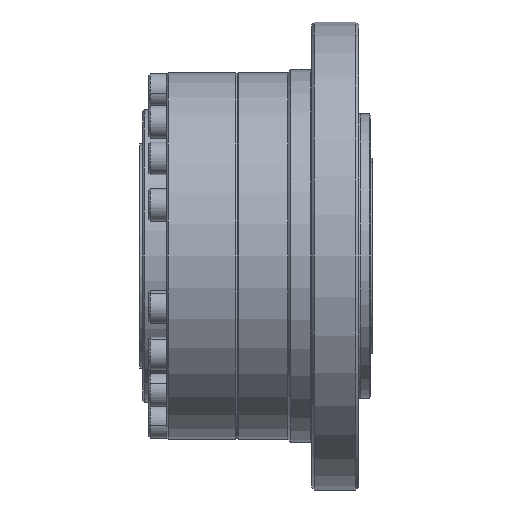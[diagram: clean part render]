
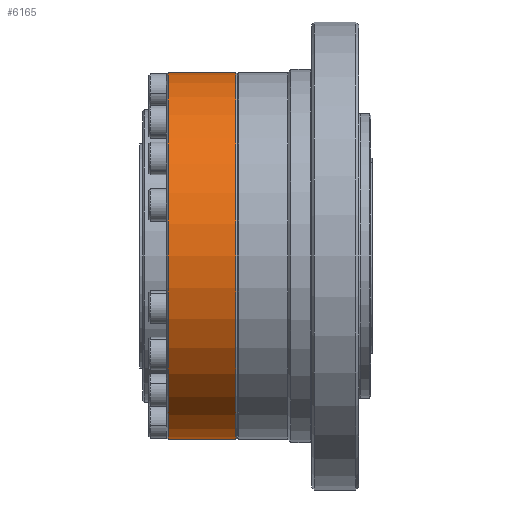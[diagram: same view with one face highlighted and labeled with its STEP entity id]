
A CAD part, front view. The second image highlights one B-rep face of the part: STEP entity #6165.
In plain terms, the highlighted cylindrical face has radius 31 mm (diameter 62 mm), a partial arc.
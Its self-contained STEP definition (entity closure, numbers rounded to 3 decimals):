
#868 = CARTESIAN_POINT ( 'NONE',  ( -37.425, 5.982, 48. ) ) ;
#1724 = CIRCLE ( 'NONE', #3971, 31. ) ;
#2886 = VERTEX_POINT ( 'NONE', #18657 ) ;
#3475 = DIRECTION ( 'NONE',  ( -1., 0., 0. ) ) ;
#3971 = AXIS2_PLACEMENT_3D ( 'NONE', #6357, #6541, #6526 ) ;
#3974 = CYLINDRICAL_SURFACE ( 'NONE', #16759, 31. ) ;
#4394 = DIRECTION ( 'NONE',  ( -1., 0., 0. ) ) ;
#4835 = VECTOR ( 'NONE', #5107, 1000. ) ;
#5107 = DIRECTION ( 'NONE',  ( -1., 0., 0. ) ) ;
#6165 = ADVANCED_FACE ( 'NONE', ( #11815 ), #3974, .T. ) ;
#6357 = CARTESIAN_POINT ( 'NONE',  ( -37.425, 5.982, 79. ) ) ;
#6526 = DIRECTION ( 'NONE',  ( 0., 0., 1. ) ) ;
#6541 = DIRECTION ( 'NONE',  ( 1., 0., 0. ) ) ;
#6702 = VERTEX_POINT ( 'NONE', #7712 ) ;
#6762 = ORIENTED_EDGE ( 'NONE', *, *, #7601, .T. ) ;
#6919 = VECTOR ( 'NONE', #4394, 1000. ) ;
#7368 = EDGE_CURVE ( 'NONE', #6702, #10870, #8321, .T. ) ;
#7394 = CIRCLE ( 'NONE', #12494, 31. ) ;
#7503 = EDGE_CURVE ( 'NONE', #2886, #12783, #18797, .T. ) ;
#7601 = EDGE_CURVE ( 'NONE', #12783, #10870, #1724, .T. ) ;
#7712 = CARTESIAN_POINT ( 'NONE',  ( -26.025, 5.982, 48. ) ) ;
#8066 = ORIENTED_EDGE ( 'NONE', *, *, #18795, .T. ) ;
#8321 = LINE ( 'NONE', #12688, #4835 ) ;
#8623 = ORIENTED_EDGE ( 'NONE', *, *, #7368, .F. ) ;
#10870 = VERTEX_POINT ( 'NONE', #868 ) ;
#11124 = CARTESIAN_POINT ( 'NONE',  ( -25.725, 5.982, 110. ) ) ;
#11734 = EDGE_LOOP ( 'NONE', ( #8623, #8066, #18412, #6762 ) ) ;
#11815 = FACE_OUTER_BOUND ( 'NONE', #11734, .T. ) ;
#12084 = DIRECTION ( 'NONE',  ( 0., 0., 1. ) ) ;
#12245 = CARTESIAN_POINT ( 'NONE',  ( -25.725, 5.982, 79. ) ) ;
#12302 = CARTESIAN_POINT ( 'NONE',  ( -26.025, 5.982, 79. ) ) ;
#12315 = CARTESIAN_POINT ( 'NONE',  ( -37.425, 5.982, 110. ) ) ;
#12439 = DIRECTION ( 'NONE',  ( -1., 0., 0. ) ) ;
#12494 = AXIS2_PLACEMENT_3D ( 'NONE', #12302, #3475, #13849 ) ;
#12688 = CARTESIAN_POINT ( 'NONE',  ( -25.725, 5.982, 48. ) ) ;
#12783 = VERTEX_POINT ( 'NONE', #12315 ) ;
#13849 = DIRECTION ( 'NONE',  ( 0., 0., -1. ) ) ;
#16759 = AXIS2_PLACEMENT_3D ( 'NONE', #12245, #12439, #12084 ) ;
#18412 = ORIENTED_EDGE ( 'NONE', *, *, #7503, .T. ) ;
#18657 = CARTESIAN_POINT ( 'NONE',  ( -26.025, 5.982, 110. ) ) ;
#18795 = EDGE_CURVE ( 'NONE', #6702, #2886, #7394, .T. ) ;
#18797 = LINE ( 'NONE', #11124, #6919 ) ;
